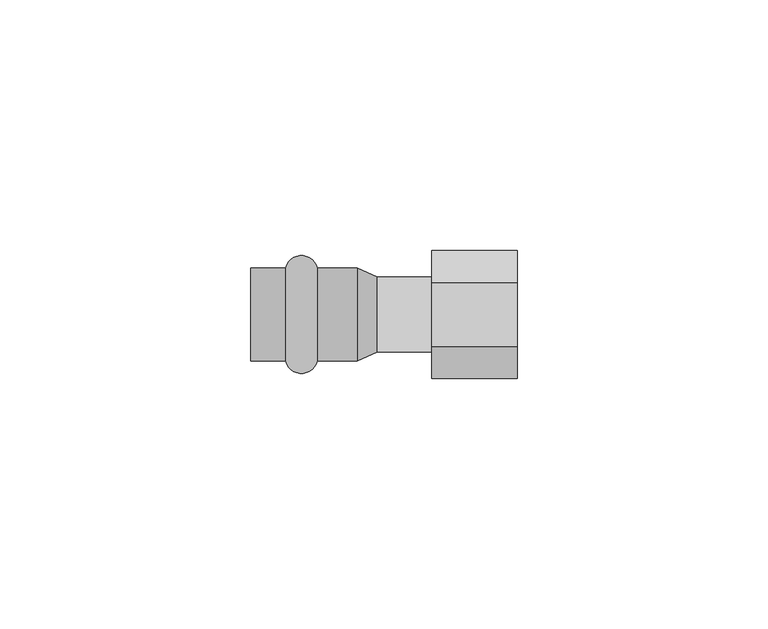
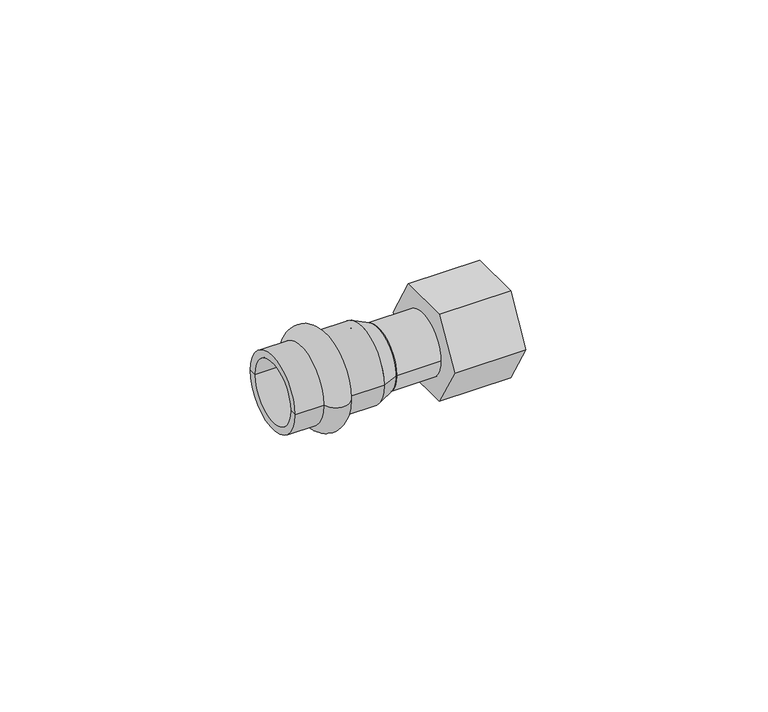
"""IFC4 building model written with IfcOpenShell, lengths in millimetres: pipe fitting geometry, VALTEC_VTi.902.I_Соединитель прямой с переходом на внутреннюю резьбу_Нержавеющая сталь : VTi.902.I."""

from ifc_helpers import new_model, si_unit, point, frame, origin, origin_2d, place, context, project, spatial, polyline, circle_curve, ellipse_curve, trimmed, segment, composite_curve, outline, extrude, source, transform, mapped, element, save
from ifc_brep_helpers import plane_surface, cylinder_surface, revolved_surface, advanced_brep


def pipe_fitting_6bd93e72(model_context):
    return source(origin(), model_context, "Body", "SolidModel", [
        advanced_brep(
        [(-37.6122777, -9.25, 0.0), (-37.6122777, 9.25, 0.0), (-31.2877223, 9.25, 0.0), (-31.2877223, -9.25, 0.0), (-44.5, -9.25, 0.0), (-44.5, 9.25, 0.0), (-44.5, -7.5, 0.0), (-44.5, 7.5, 0.0), (-23.3, -7.5, 0.0), (-23.3, 7.5, 0.0), (-23.3, -9.25, 0.0), (-23.3, 9.25, 0.0)],
        [
            (0, 1, circle_curve(frame((-37.6122777, 0.0, 0.0), z_axis=(1.0, 0.0, 0.0), x_axis=(0.0, 1.0, 0.0)), 9.25)),
            (1, 2, circle_curve(frame((-34.45, 8.5, 0.0), z_axis=(0.0, 0.0, -1.0), x_axis=(1.0, 0.0, 0.0)), 3.25)),
            (2, 3, circle_curve(frame((-31.2877223, 0.0, 0.0), z_axis=(-1.0, 0.0, 0.0), x_axis=(0.0, 1.0, 0.0)), 9.25)),
            (3, 0, circle_curve(frame((-34.45, -8.5, 0.0), z_axis=(0.0, 0.0, -1.0), x_axis=(1.0, 0.0, 0.0)), 3.25)),
            (1, 0, circle_curve(frame((-37.6122777, 0.0, 0.0), z_axis=(1.0, 0.0, 0.0), x_axis=(0.0, 1.0, 0.0)), 9.25)),
            (3, 2, circle_curve(frame((-31.2877223, 0.0, 0.0), z_axis=(-1.0, 0.0, 0.0), x_axis=(0.0, 1.0, 0.0)), 9.25)),
            (4, 5, circle_curve(frame((-44.5, 0.0, 0.0), z_axis=(1.0, 0.0, 0.0), x_axis=(0.0, 1.0, 0.0)), 9.25)),
            (5, 1),
            (0, 4),
            (5, 4, circle_curve(frame((-44.5, 0.0, 0.0), z_axis=(1.0, 0.0, 0.0), x_axis=(0.0, 1.0, 0.0)), 9.25)),
            (6, 7, circle_curve(frame((-44.5, 0.0, 0.0), z_axis=(1.0, 0.0, 0.0), x_axis=(0.0, 1.0, 0.0)), 7.5)),
            (7, 5),
            (4, 6),
            (7, 6, circle_curve(frame((-44.5, 0.0, 0.0), z_axis=(1.0, 0.0, 0.0), x_axis=(0.0, 1.0, 0.0)), 7.5)),
            (8, 9, circle_curve(frame((-23.3, 0.0, 0.0), z_axis=(1.0, 0.0, 0.0), x_axis=(0.0, 1.0, 0.0)), 7.5)),
            (9, 7),
            (6, 8),
            (9, 8, circle_curve(frame((-23.3, 0.0, 0.0), z_axis=(1.0, 0.0, 0.0), x_axis=(0.0, 1.0, 0.0)), 7.5)),
            (10, 11, circle_curve(frame((-23.3, 0.0, 0.0), z_axis=(1.0, 0.0, 0.0), x_axis=(0.0, 1.0, 0.0)), 9.25)),
            (11, 9),
            (8, 10),
            (11, 10, circle_curve(frame((-23.3, 0.0, 0.0), z_axis=(1.0, 0.0, 0.0), x_axis=(0.0, 1.0, 0.0)), 9.25)),
            (2, 11),
            (10, 3),
        ],
        [
            revolved_surface(trimmed(ellipse_curve(frame((-34.45, 8.5, 0.0), z_axis=(0.0, 0.0, 1.0), x_axis=(1.0, 0.0, 0.0)), 3.25, 3.25), [point((-31.2877223, 9.25, 0.0))], [point((-37.6122777, 9.25, 0.0))], True, "CARTESIAN"), (-48.0364426, 0.0, 0.0), (-1.0, 0.0, 0.0)),
            cylinder_surface(frame((-48.0364426, 0.0, 0.0), z_axis=(-1.0, 0.0, 0.0), x_axis=(0.0, 1.0, 0.0)), 9.25),
            plane_surface(frame((-44.5, 0.0, 0.0), z_axis=(-1.0, 0.0, 0.0), x_axis=(0.0, 1.0, 0.0))),
            revolved_surface(polyline([(-44.5, 7.5, 0.0), (-23.3, 7.5, 0.0)]), (-48.0364426, 0.0, 0.0), (-1.0, 0.0, 0.0)),
            plane_surface(frame((-23.3, 0.0, 0.0), z_axis=(1.0, 0.0, 0.0), x_axis=(0.0, 1.0, 0.0))),
        ],
        [
            (0, [[1, 2, 3, 4]]),
            (0, [[5, -4, 6, -2]]),
            (1, [[7, 8, -1, 9]]),
            (1, [[10, -9, -5, -8]]),
            (2, [[11, 12, -7, 13]]),
            (2, [[14, -13, -10, -12]]),
            (3, [[15, 16, -11, 17]]),
            (3, [[18, -17, -14, -16]]),
            (4, [[19, 20, -15, 21]]),
            (4, [[22, -21, -18, -20]]),
            (1, [[-3, 23, -19, 24]]),
            (1, [[-6, -24, -22, -23]]),
        ],
    ),
        extrude(outline(polyline([(-12.7017059, 0.0), (-6.350853, 11.0), (6.350853, 11.0), (12.7017059, 0.0), (6.350853, -11.0), (-6.350853, -11.0), (-12.7017059, 0.0)])), frame((-8.5, 0.0, 0.0), z_axis=(1.0, 0.0, 0.0), x_axis=(0.0, 1.0, 0.0)), (0.0, 0.0, 1.0), 17.0),
        extrude(outline(composite_curve([segment(trimmed(circle_curve(origin_2d(), 7.5), [point((-7.5, 0.0))], [point((7.5, 0.0))], False, "CARTESIAN"), True, "CONTINUOUS"), segment(trimmed(circle_curve(origin_2d(), 7.5), [point((7.5, 0.0))], [point((-7.5, 0.0))], False, "CARTESIAN"), True, "CONTINUOUS")], self_intersect=False)), frame((-19.3, 0.0, 0.0), z_axis=(1.0, 0.0, 0.0), x_axis=(0.0, 1.0, 0.0)), (0.0, 0.0, 1.0), 10.8),
        advanced_brep(
        [(-19.3, -7.5, 0.0), (-19.3, 7.5, 0.0), (-23.3, -9.25, 0.0), (-23.3, 9.25, 0.0)],
        [
            (0, 1, circle_curve(frame((-19.3, 0.0, 0.0), z_axis=(1.0, 0.0, 0.0), x_axis=(0.0, -1.0, 0.0)), 7.5)),
            (1, 0, circle_curve(frame((-19.3, 0.0, 0.0), z_axis=(1.0, 0.0, 0.0), x_axis=(0.0, 1.0, 0.0)), 7.5)),
            (2, 3, circle_curve(frame((-23.3, 0.0, 0.0), z_axis=(-1.0, 0.0, 0.0), x_axis=(0.0, 1.0, 0.0)), 9.25)),
            (3, 2, circle_curve(frame((-23.3, 0.0, 0.0), z_axis=(-1.0, 0.0, 0.0), x_axis=(0.0, -1.0, 0.0)), 9.25)),
            (3, 1),
            (0, 2),
        ],
        [
            plane_surface(frame((-19.3, 0.0, 0.0), z_axis=(1.0, 0.0, 0.0), x_axis=(0.0, 0.0, -1.0))),
            plane_surface(frame((-23.3, 0.0, 0.0), z_axis=(-1.0, 0.0, 0.0), x_axis=(0.0, 0.0, -1.0))),
            revolved_surface(polyline([(-19.3, -7.499999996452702, 0.0), (-23.3, -9.25, 0.0)]), (-2.1571429, 0.0, 0.0), (-1.0, 0.0, 0.0)),
            revolved_surface(polyline([(-19.3, 7.499999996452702, 0.0), (-23.3, 9.25, 0.0)]), (-2.1571429, 0.0, 0.0), (-1.0, 0.0, 0.0)),
        ],
        [
            (0, [[1, 2]]),
            (1, [[3, 4]]),
            (2, [[-4, 5, -1, 6]]),
            (3, [[-3, -6, -2, -5]]),
        ],
    ),
    ])


if __name__ == "__main__":
    model = new_model("IFC4")
    model_context = context("Model", 3, world=origin())
    ifc_project = project(units=[si_unit("LENGTHUNIT", "METRE", prefix="MILLI")], contexts=[model_context])
    site = spatial("IfcSite", under=ifc_project)
    building = spatial("IfcBuilding", under=site)
    placement = place(None, origin())
    pipe_fitting_shape = pipe_fitting_6bd93e72(model_context)
    element("IfcPipeFitting", 1, ObjectType="VALTEC_VTi.902.I_Соединитель прямой с переходом на внутреннюю резьбу_Нержавеющая сталь : VTi.902.I", at=placement, inside=building, context=model_context, shape_type="MappedRepresentation", body=[
        mapped(pipe_fitting_shape, transform((0.0, 0.0, 0.0), x_axis=(1.0, 0.0, 0.0), y_axis=(0.0, 1.0, 0.0), z_axis=(0.0, 0.0, 1.0))),
    ])
    save(model, "model.ifc")
